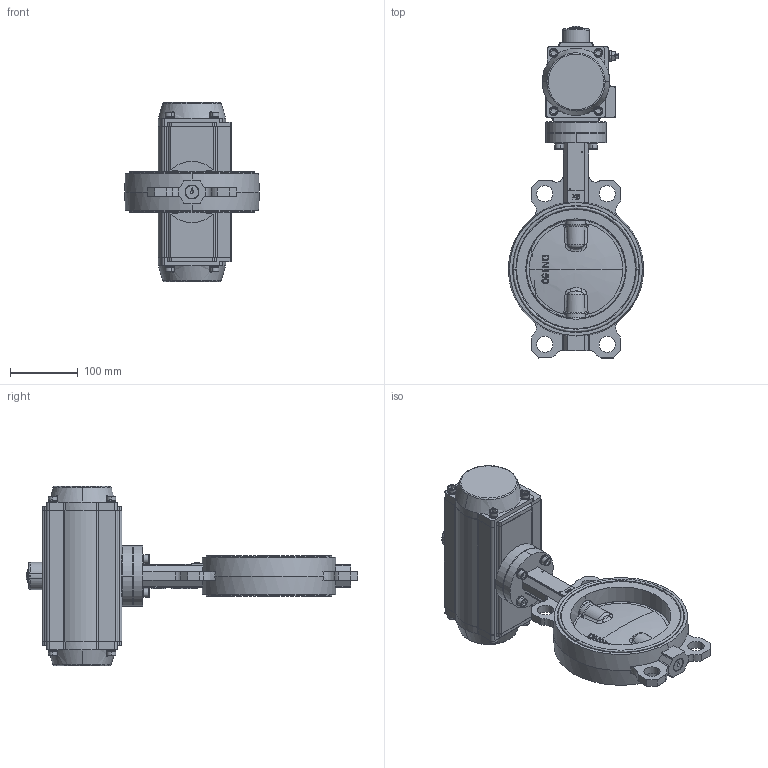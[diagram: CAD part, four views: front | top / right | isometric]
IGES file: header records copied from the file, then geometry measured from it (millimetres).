
Start section: SolidWorks IGES file using NURBS representation for surfaces
Global section: file name: H:\BE BIBLIOTHEQUE 3D\Projet_Biblio3D_2016\FSK\VPI\VPI-N03\VPI-N03 DN150.Igs; native system: SolidWorks 2014; preprocessor: SolidWorks 2014; author: a.cartier; date: 160929.170649; units: millimetre
Bounding box: 198.79 x 489.12 x 264 mm (x, y, z)
Volume: 2576474 mm3; surface area: 561364.3 mm2
Topology: 58 solids, 58 shells, 2337 faces, 6093 edges, 3896 vertices
Faces by surface type: bspline 2337
